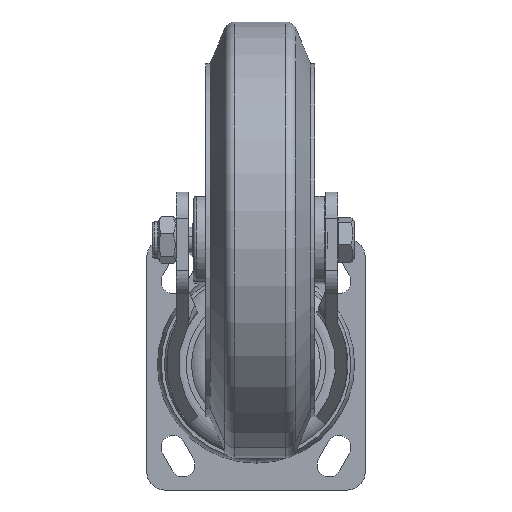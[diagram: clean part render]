
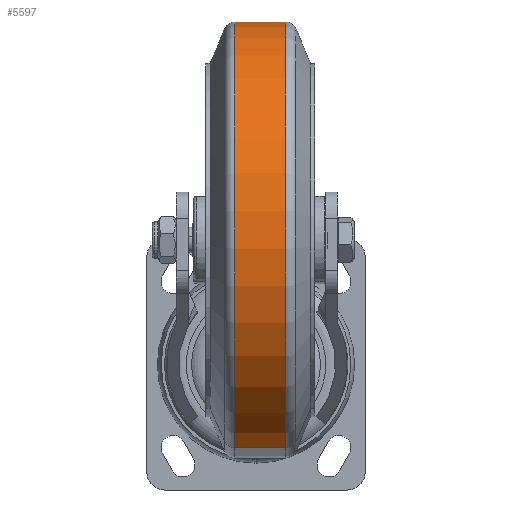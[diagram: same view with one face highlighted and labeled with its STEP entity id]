
A CAD part, front view. The second image highlights one B-rep face of the part: STEP entity #5597.
In plain terms, the highlighted cylindrical face has radius 100 mm (diameter 200 mm), a partial arc.
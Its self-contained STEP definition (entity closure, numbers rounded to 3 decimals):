
#804 = CYLINDRICAL_SURFACE ( 'NONE', #806, 100. ) ;
#805 = CARTESIAN_POINT ( 'NONE',  ( 0., 29.32, 100. ) ) ;
#806 = AXIS2_PLACEMENT_3D ( 'NONE', #866, #865, #864 ) ;
#807 = FACE_OUTER_BOUND ( 'NONE', #5599, .T. ) ;
#819 = CARTESIAN_POINT ( 'NONE',  ( 0., 52.68, -100. ) ) ;
#820 = DIRECTION ( 'NONE',  ( 0., 0., -1. ) ) ;
#821 = DIRECTION ( 'NONE',  ( 0., -1., 0. ) ) ;
#822 = CARTESIAN_POINT ( 'NONE',  ( 0., 52.68, 0. ) ) ;
#823 = AXIS2_PLACEMENT_3D ( 'NONE', #822, #821, #820 ) ;
#824 = CIRCLE ( 'NONE', #823, 100. ) ;
#825 = CARTESIAN_POINT ( 'NONE',  ( 0., 52.68, 100. ) ) ;
#864 = DIRECTION ( 'NONE',  ( 0., 0., -1. ) ) ;
#865 = DIRECTION ( 'NONE',  ( 0., -1., 0. ) ) ;
#866 = CARTESIAN_POINT ( 'NONE',  ( 0., 0., 0. ) ) ;
#5586 = VERTEX_POINT ( 'NONE', #825 ) ;
#5589 = EDGE_CURVE ( 'NONE', #5591, #5586, #824, .T. ) ;
#5591 = VERTEX_POINT ( 'NONE', #819 ) ;
#5597 = ADVANCED_FACE ( 'NONE', ( #807 ), #804, .T. ) ;
#5599 = EDGE_LOOP ( 'NONE', ( #5601, #5663, #5666, #5672 ) ) ;
#5601 = ORIENTED_EDGE ( 'NONE', *, *, #5589, .T. ) ;
#5602 = VERTEX_POINT ( 'NONE', #805 ) ;
#5663 = ORIENTED_EDGE ( 'NONE', *, *, #5665, .T. ) ;
#5665 = EDGE_CURVE ( 'NONE', #5586, #5602, #14037, .T. ) ;
#5666 = ORIENTED_EDGE ( 'NONE', *, *, #5668, .F. ) ;
#5668 = EDGE_CURVE ( 'NONE', #5670, #5602, #14033, .T. ) ;
#5670 = VERTEX_POINT ( 'NONE', #14028 ) ;
#5672 = ORIENTED_EDGE ( 'NONE', *, *, #5674, .F. ) ;
#5674 = EDGE_CURVE ( 'NONE', #5591, #5670, #14021, .T. ) ;
#14018 = DIRECTION ( 'NONE',  ( 0., -1., 0. ) ) ;
#14019 = VECTOR ( 'NONE', #14018, 1000. ) ;
#14020 = CARTESIAN_POINT ( 'NONE',  ( 0., 0., -100. ) ) ;
#14021 = LINE ( 'NONE', #14020, #14019 ) ;
#14028 = CARTESIAN_POINT ( 'NONE',  ( 0., 29.32, -100. ) ) ;
#14029 = DIRECTION ( 'NONE',  ( 0., 0., -1. ) ) ;
#14030 = DIRECTION ( 'NONE',  ( 0., -1., 0. ) ) ;
#14031 = CARTESIAN_POINT ( 'NONE',  ( 0., 29.32, 0. ) ) ;
#14032 = AXIS2_PLACEMENT_3D ( 'NONE', #14031, #14030, #14029 ) ;
#14033 = CIRCLE ( 'NONE', #14032, 100. ) ;
#14034 = DIRECTION ( 'NONE',  ( 0., -1., 0. ) ) ;
#14035 = VECTOR ( 'NONE', #14034, 1000. ) ;
#14036 = CARTESIAN_POINT ( 'NONE',  ( 0., 0., 100. ) ) ;
#14037 = LINE ( 'NONE', #14036, #14035 ) ;
